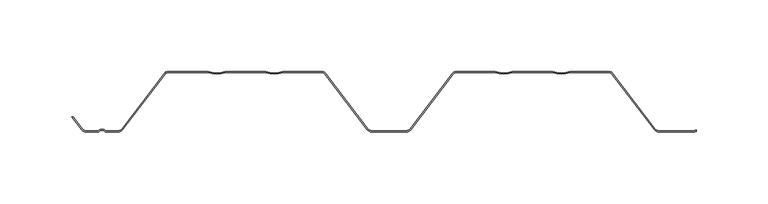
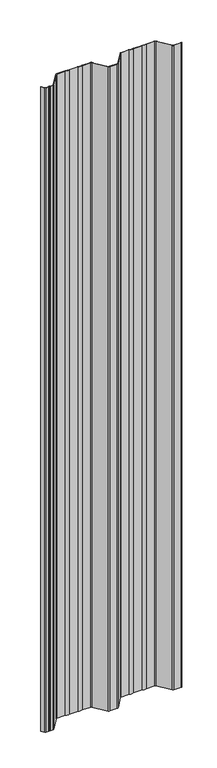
"""IFC4 building model written with IfcOpenShell, lengths in millimetres: plate geometry, HIANSA - H20.F09.004-CHAPA PERFILADA FACHADA VERTICAL - MT42 - Panel de Muro Cortina : -."""

from ifc_helpers import new_model, si_unit, point, frame_2d, origin, origin_with_axes, place, context, project, spatial, polyline, circle_curve, trimmed, segment, composite_curve, outline, extrude, source, transform, mapped, element, save


def plate_5df026c1(model_context):
    return source(origin(), model_context, "Body", "SweptSolid", [
        extrude(outline(composite_curve([segment(trimmed(circle_curve(frame_2d((212.350007, -38.7)), 2.6), [point((212.350007, -41.3))], [point((213.9999998, -40.709359))], True, "CARTESIAN"), True, "CONTINUOUS"), segment(polyline([(213.9999998, -40.709359), (213.9999998, -41.6727972)]), True, "CONTINUOUS"), segment(trimmed(circle_curve(frame_2d((212.350007, -38.7)), 3.4), [point((213.9999998, -41.6727972))], [point((212.350007, -42.1))], False, "CARTESIAN"), True, "CONTINUOUS"), segment(polyline([(212.350007, -42.1), (187.6499934, -42.1)]), True, "CONTINUOUS"), segment(trimmed(circle_curve(frame_2d((187.6499934, -38.7)), 3.4), [point((187.6499934, -42.1))], [point((184.9453835, -40.7603606))], False, "CARTESIAN"), True, "CONTINUOUS"), segment(polyline([(184.9453835, -40.7603606), (155.2841531, -1.8244302)]), True, "CONTINUOUS"), segment(trimmed(circle_curve(frame_2d((153.2159221, -3.4)), 2.6), [point((155.2841531, -1.8244302))], [point((153.2159221, -0.8))], True, "CARTESIAN"), True, "CONTINUOUS"), segment(polyline([(153.2159221, -0.8), (126.0663005, -0.8)]), True, "CONTINUOUS"), segment(trimmed(circle_curve(frame_2d((120.0000002, 17.1)), 18.9), [point((126.0663005, -0.8))], [point((113.9336998, -0.8))], False, "CARTESIAN"), True, "CONTINUOUS"), segment(polyline([(113.9336998, -0.8), (86.0663005, -0.8)]), True, "CONTINUOUS"), segment(trimmed(circle_curve(frame_2d((80.0000002, 17.1)), 18.9), [point((86.0663005, -0.8))], [point((73.9336998, -0.8))], False, "CARTESIAN"), True, "CONTINUOUS"), segment(polyline([(73.9336998, -0.8), (46.7840782, -0.8)]), True, "CONTINUOUS"), segment(trimmed(circle_curve(frame_2d((46.7840782, -3.4)), 2.6), [point((46.7840782, -0.8))], [point((44.7158472, -1.8244302))], True, "CARTESIAN"), True, "CONTINUOUS"), segment(polyline([(44.7158472, -1.8244302), (15.0546168, -40.7603606)]), True, "CONTINUOUS"), segment(trimmed(circle_curve(frame_2d((12.350007, -38.7)), 3.4), [point((15.0546168, -40.7603606))], [point((12.350007, -42.1))], False, "CARTESIAN"), True, "CONTINUOUS"), segment(polyline([(12.350007, -42.1), (-12.3500066, -42.1)]), True, "CONTINUOUS"), segment(trimmed(circle_curve(frame_2d((-12.3500066, -38.7)), 3.4), [point((-12.3500066, -42.1))], [point((-15.0546165, -40.7603606))], False, "CARTESIAN"), True, "CONTINUOUS"), segment(polyline([(-15.0546165, -40.7603606), (-44.7158469, -1.8244302)]), True, "CONTINUOUS"), segment(trimmed(circle_curve(frame_2d((-46.7840779, -3.4)), 2.6), [point((-44.7158469, -1.8244302))], [point((-46.7840779, -0.8))], True, "CARTESIAN"), True, "CONTINUOUS"), segment(polyline([(-46.7840779, -0.8), (-73.9336995, -0.8)]), True, "CONTINUOUS"), segment(trimmed(circle_curve(frame_2d((-79.9999998, 17.1)), 18.9), [point((-73.9336995, -0.8))], [point((-86.0663002, -0.8))], False, "CARTESIAN"), True, "CONTINUOUS"), segment(polyline([(-86.0663002, -0.8), (-113.9336995, -0.8)]), True, "CONTINUOUS"), segment(trimmed(circle_curve(frame_2d((-119.9999998, 17.1)), 18.9), [point((-113.9336995, -0.8))], [point((-126.0663002, -0.8))], False, "CARTESIAN"), True, "CONTINUOUS"), segment(polyline([(-126.0663002, -0.8), (-154.0500066, -0.8)]), True, "CONTINUOUS"), segment(trimmed(circle_curve(frame_2d((-154.0500066, -3.4)), 2.6), [point((-154.0500066, -0.8))], [point((-156.1182377, -1.8244302))], True, "CARTESIAN"), True, "CONTINUOUS"), segment(polyline([(-156.1182377, -1.8244302), (-185.7794681, -40.7603606)]), True, "CONTINUOUS"), segment(trimmed(circle_curve(frame_2d((-188.4840779, -38.7)), 3.4), [point((-185.7794681, -40.7603606))], [point((-188.4840779, -42.1))], False, "CARTESIAN"), True, "CONTINUOUS"), segment(polyline([(-188.4840779, -42.1), (-197.2431901, -42.1)]), True, "CONTINUOUS"), segment(trimmed(circle_curve(frame_2d((-197.2431901, -40.8)), 1.3), [point((-197.2431901, -42.1))], [point((-198.0766442, -41.7976744))], False, "CARTESIAN"), True, "CONTINUOUS"), segment(trimmed(circle_curve(frame_2d((-199.9999998, -44.1)), 3.0), [point((-198.0766442, -41.7976744))], [point((-201.9233555, -41.7976744))], True, "CARTESIAN"), True, "CONTINUOUS"), segment(trimmed(circle_curve(frame_2d((-202.7568096, -40.8)), 1.3), [point((-201.9233555, -41.7976744))], [point((-202.7568096, -42.1))], False, "CARTESIAN"), True, "CONTINUOUS"), segment(polyline([(-202.7568096, -42.1), (-211.5159218, -42.1)]), True, "CONTINUOUS"), segment(trimmed(circle_curve(frame_2d((-211.5159218, -38.7)), 3.4), [point((-211.5159218, -42.1))], [point((-214.2205316, -40.7603606))], False, "CARTESIAN"), True, "CONTINUOUS"), segment(polyline([(-214.2205316, -40.7603606), (-221.0778491, -31.7588447), (-220.0721587, -31.7588447), (-213.5841528, -40.2755698)]), True, "CONTINUOUS"), segment(trimmed(circle_curve(frame_2d((-211.5159218, -38.7)), 2.6), [point((-213.5841528, -40.2755698))], [point((-211.5159218, -41.3))], True, "CARTESIAN"), True, "CONTINUOUS"), segment(polyline([(-211.5159218, -41.3), (-202.5690464, -41.3)]), True, "CONTINUOUS"), segment(trimmed(circle_curve(frame_2d((-199.9999998, -44.1)), 3.8), [point((-202.5690464, -41.3))], [point((-197.4309533, -41.3))], False, "CARTESIAN"), True, "CONTINUOUS"), segment(polyline([(-197.4309533, -41.3), (-188.4840779, -41.3)]), True, "CONTINUOUS"), segment(trimmed(circle_curve(frame_2d((-188.4840779, -38.7)), 2.6), [point((-188.4840779, -41.3))], [point((-186.4158469, -40.2755698))], True, "CARTESIAN"), True, "CONTINUOUS"), segment(polyline([(-186.4158469, -40.2755698), (-156.7546165, -1.3396394)]), True, "CONTINUOUS"), segment(trimmed(circle_curve(frame_2d((-154.0500066, -3.4)), 3.4), [point((-156.7546165, -1.3396394))], [point((-154.0500066, 0.0))], False, "CARTESIAN"), True, "CONTINUOUS"), segment(polyline([(-154.0500066, 0.0), (-125.9329586, 0.0)]), True, "CONTINUOUS"), segment(trimmed(circle_curve(frame_2d((-119.9999998, 17.1)), 18.1), [point((-125.9329586, 0.0))], [point((-114.0670411, 0.0))], True, "CARTESIAN"), True, "CONTINUOUS"), segment(polyline([(-114.0670411, 0.0), (-85.9329586, 0.0)]), True, "CONTINUOUS"), segment(trimmed(circle_curve(frame_2d((-79.9999998, 17.1)), 18.1), [point((-85.9329586, 0.0))], [point((-74.0670411, 0.0))], True, "CARTESIAN"), True, "CONTINUOUS"), segment(polyline([(-74.0670411, 0.0), (-46.7840779, 0.0)]), True, "CONTINUOUS"), segment(trimmed(circle_curve(frame_2d((-46.7840779, -3.4)), 3.4), [point((-46.7840779, 0.0))], [point((-44.0794681, -1.3396394))], False, "CARTESIAN"), True, "CONTINUOUS"), segment(polyline([(-44.0794681, -1.3396394), (-14.4182377, -40.2755698)]), True, "CONTINUOUS"), segment(trimmed(circle_curve(frame_2d((-12.3500066, -38.7)), 2.6), [point((-14.4182377, -40.2755698))], [point((-12.3500066, -41.3))], True, "CARTESIAN"), True, "CONTINUOUS"), segment(polyline([(-12.3500066, -41.3), (12.350007, -41.3)]), True, "CONTINUOUS"), segment(trimmed(circle_curve(frame_2d((12.350007, -38.7)), 2.6), [point((12.350007, -41.3))], [point((14.418238, -40.2755698))], True, "CARTESIAN"), True, "CONTINUOUS"), segment(polyline([(14.418238, -40.2755698), (44.0794684, -1.3396394)]), True, "CONTINUOUS"), segment(trimmed(circle_curve(frame_2d((46.7840782, -3.4)), 3.4), [point((44.0794684, -1.3396394))], [point((46.7840782, 0.0))], False, "CARTESIAN"), True, "CONTINUOUS"), segment(polyline([(46.7840782, 0.0), (74.0670414, 0.0)]), True, "CONTINUOUS"), segment(trimmed(circle_curve(frame_2d((80.0000002, 17.1)), 18.1), [point((74.0670414, 0.0))], [point((85.9329589, 0.0))], True, "CARTESIAN"), True, "CONTINUOUS"), segment(polyline([(85.9329589, 0.0), (114.0670414, 0.0)]), True, "CONTINUOUS"), segment(trimmed(circle_curve(frame_2d((120.0000002, 17.1)), 18.1), [point((114.0670414, 0.0))], [point((125.9329589, 0.0))], True, "CARTESIAN"), True, "CONTINUOUS"), segment(polyline([(125.9329589, 0.0), (153.2159221, 0.0)]), True, "CONTINUOUS"), segment(trimmed(circle_curve(frame_2d((153.2159221, -3.4)), 3.4), [point((153.2159221, 0.0))], [point((155.9205319, -1.3396394))], False, "CARTESIAN"), True, "CONTINUOUS"), segment(polyline([(155.9205319, -1.3396394), (185.5817623, -40.2755698)]), True, "CONTINUOUS"), segment(trimmed(circle_curve(frame_2d((187.6499934, -38.7)), 2.6), [point((185.5817623, -40.2755698))], [point((187.6499934, -41.3))], True, "CARTESIAN"), True, "CONTINUOUS"), segment(polyline([(187.6499934, -41.3), (212.350007, -41.3)]), True, "CONTINUOUS")], self_intersect=False)), origin_with_axes(), (0.0, 0.0, 1.0), 2128.0),
    ])


if __name__ == "__main__":
    model = new_model("IFC4")
    model_context = context("Model", 3, world=origin())
    ifc_project = project(units=[si_unit("LENGTHUNIT", "METRE", prefix="MILLI")], contexts=[model_context])
    site = spatial("IfcSite", under=ifc_project)
    building = spatial("IfcBuilding", under=site)
    placement = place(None, origin())
    plate_shape = plate_5df026c1(model_context)
    element("IfcPlate", 1, ObjectType="HIANSA - H20.F09.004-CHAPA PERFILADA FACHADA VERTICAL - MT42 - Panel de Muro Cortina : -", at=placement, inside=building, context=model_context, shape_type="MappedRepresentation", body=[
        mapped(plate_shape, transform((0.0, 0.0, 0.0), x_axis=(1.0, 0.0, 0.0), y_axis=(0.0, 1.0, 0.0), z_axis=(0.0, 0.0, 1.0))),
    ])
    save(model, "model.ifc")
